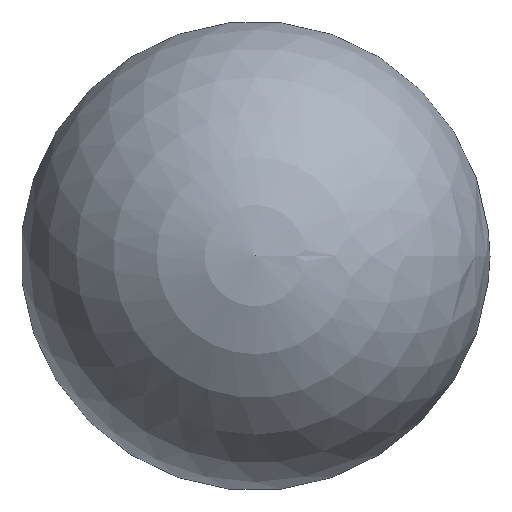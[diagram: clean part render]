
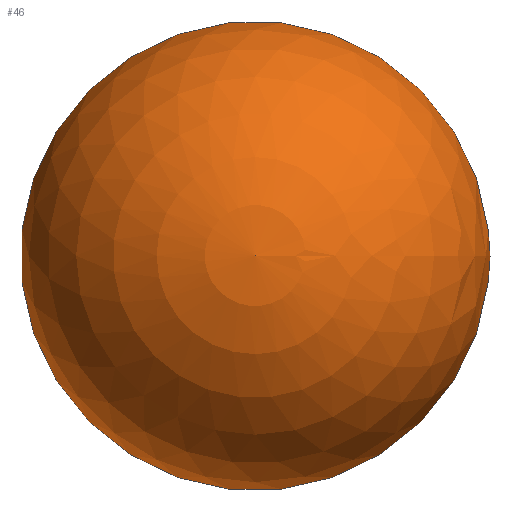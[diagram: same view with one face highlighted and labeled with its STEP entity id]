
A CAD part, top view. The second image highlights one B-rep face of the part: STEP entity #46.
In plain terms, the highlighted spherical face has radius 25 mm.
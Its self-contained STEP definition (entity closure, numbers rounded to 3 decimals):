
#20=CARTESIAN_POINT('',(0.,0.,21.4));
#21=DIRECTION('',(1.,0.,0.));
#22=DIRECTION('',(0.,0.,1.));
#23=AXIS2_PLACEMENT_3D('',#20,#22,#21);
#24=SPHERICAL_SURFACE('',#23,25.);
#25=CARTESIAN_POINT('',(12.924,0.,0.));
#26=VERTEX_POINT('',#25);
#27=CARTESIAN_POINT('',(0.,0.,46.4));
#28=VERTEX_POINT('',#27);
#29=CARTESIAN_POINT('',(0.,0.,21.4));
#30=DIRECTION('',(0.517,0.,-0.856));
#31=DIRECTION('',(0.,-1.,0.));
#32=AXIS2_PLACEMENT_3D('',#29,#31,#30);
#33=CIRCLE('',#32,25.);
#34=EDGE_CURVE('',#26,#28,#33,.T.);
#35=ORIENTED_EDGE('E1',*,*,#34,.T.);
#36=ORIENTED_EDGE('E2',*,*,#34,.F.);
#37=CARTESIAN_POINT('',(0.,0.,0.));
#38=DIRECTION('',(1.,0.,-0.));
#39=DIRECTION('',(0.,0.,1.));
#40=AXIS2_PLACEMENT_3D('',#37,#39,#38);
#41=CIRCLE('',#40,12.924);
#42=EDGE_CURVE('',#26,#26,#41,.T.);
#43=ORIENTED_EDGE('E3',*,*,#42,.F.);
#44=EDGE_LOOP('',(#35,#36,#43));
#45=FACE_OUTER_BOUND('',#44,.F.);
#46=ADVANCED_FACE('F1',(#45),#24,.T.);
